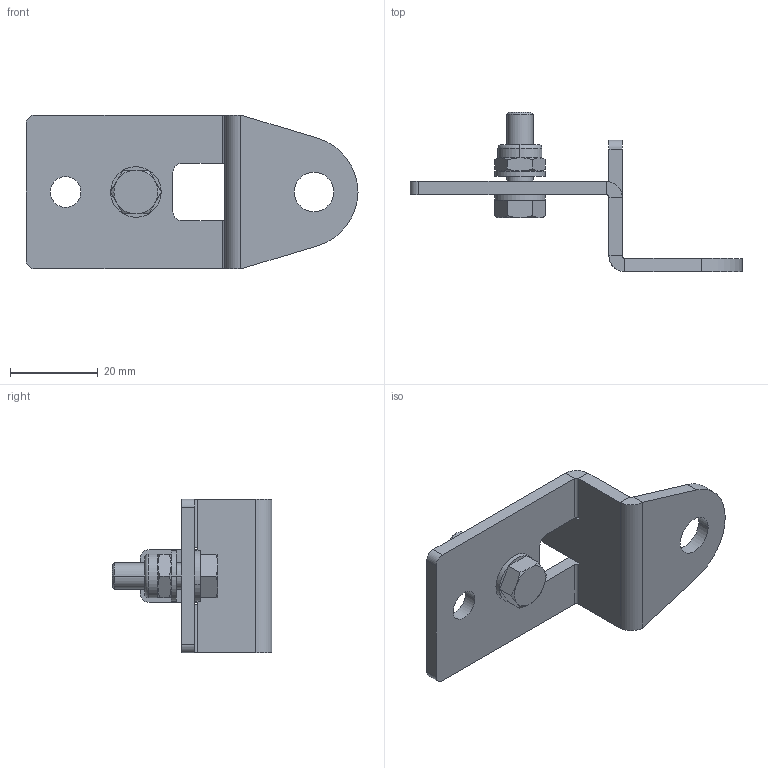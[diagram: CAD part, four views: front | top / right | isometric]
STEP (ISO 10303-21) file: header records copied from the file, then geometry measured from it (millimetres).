
FILE_DESCRIPTION (( 'STEP AP203' ), '1' );
FILE_NAME ('R5AI516.STEP', '2019-10-02T06:32:41', ( 'vlan4e' ), ( '' ), 'SwSTEP 2.0', 'SolidWorks 2019', '' );
FILE_SCHEMA (( 'CONFIG_CONTROL_DESIGN' ));
Length unit declared in the file: millimetre
Products named in the file (5): A0106013; A5100332; A3200019; R5AI516; RB.1708.00.00.0
Assembly tree (5 placements, depth 2):
  R5AI516
    RB.1708.00.00.0
    A5100332  x2
    A0106013
    A3200019
Bounding box: 75.5 x 36.3 x 35 mm (x, y, z)
Volume: 9722.9 mm3; surface area: 8213.4 mm2
Topology: 5 solids, 5 shells, 117 faces, 264 edges, 158 vertices
Faces by surface type: plane 49, cylinder 40, cone 24, torus 4
Entity records: 3761 total; most frequent: CARTESIAN_POINT 701, DIRECTION 554, ORIENTED_EDGE 504, EDGE_CURVE 252, AXIS2_PLACEMENT_3D 219, VERTEX_POINT 150, EDGE_LOOP 124, VECTOR 116
